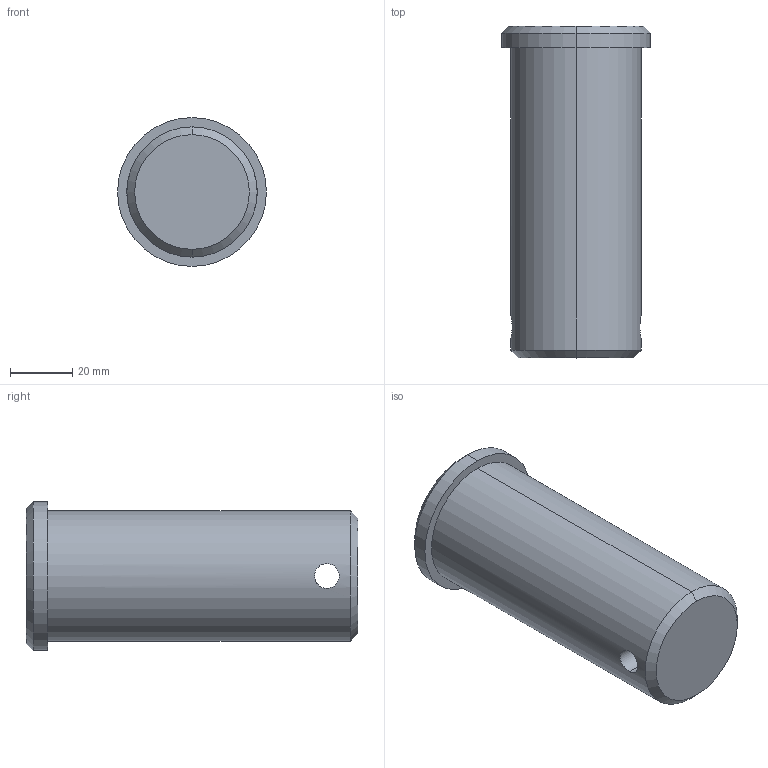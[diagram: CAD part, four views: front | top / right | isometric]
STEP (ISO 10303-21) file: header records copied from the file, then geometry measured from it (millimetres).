
FILE_DESCRIPTION (( 'STEP AP203' ), '1' );
FILE_NAME ('65660.W0142.step', '2023-10-06T10:00:52', ( '' ), ( '' ), 'SwSTEP 2.0', 'SolidWorks 2019', '' );
FILE_SCHEMA (( 'CONFIG_CONTROL_DESIGN' ));
Length unit declared in the file: millimetre
Products named in the file (1): 65660.W0142
Bounding box: 48 x 107 x 48 mm (x, y, z)
Volume: 148316.4 mm3; surface area: 18399.8 mm2
Topology: 1 solids, 1 shells, 13 faces, 26 edges, 16 vertices
Faces by surface type: cylinder 6, cone 4, plane 3
Entity records: 545 total; most frequent: CARTESIAN_POINT 188, DIRECTION 62, ORIENTED_EDGE 52, EDGE_CURVE 26, AXIS2_PLACEMENT_3D 26, VERTEX_POINT 16, EDGE_LOOP 16, ADVANCED_FACE 13
